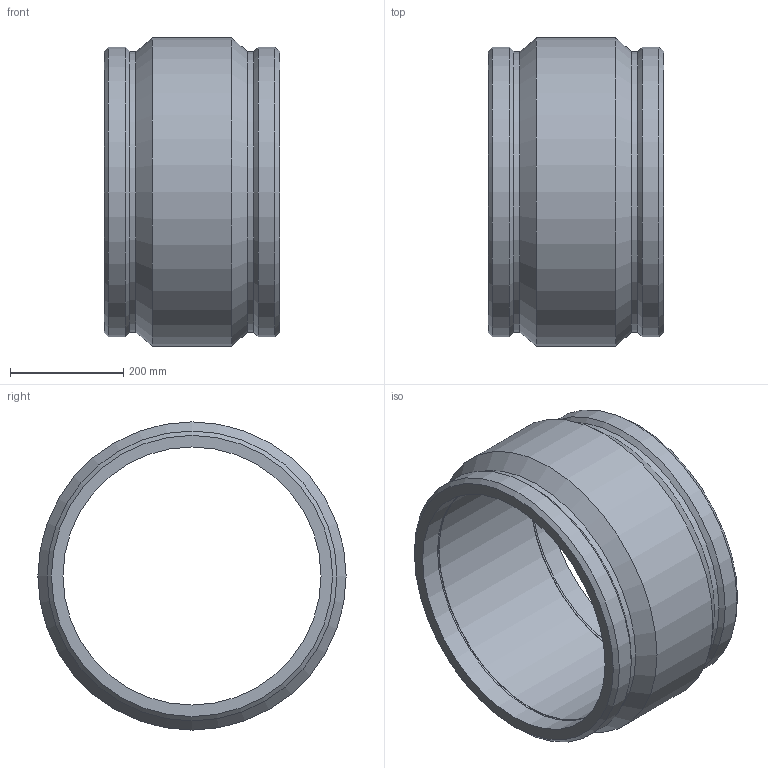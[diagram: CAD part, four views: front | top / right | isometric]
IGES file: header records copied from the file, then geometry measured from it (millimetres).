
Global section: file name: 5901B003180.ipt; native system: Autodesk Inventor 2019; preprocessor: unknown; author: KIM; date: 20210830.100847; units: inch
Bounding box: 309.88 x 543.56 x 543.56 mm (x, y, z)
Volume: 16833078.9 mm3; surface area: 1065491.9 mm2
Topology: 1 solids, 1 shells, 20 faces, 44 edges, 28 vertices
Faces by surface type: cone 6, cylinder 5, revolution 5, plane 4
Full cylindrical faces by diameter (mm): 495.618 x2, 510.946 x2, 543.56 x1
